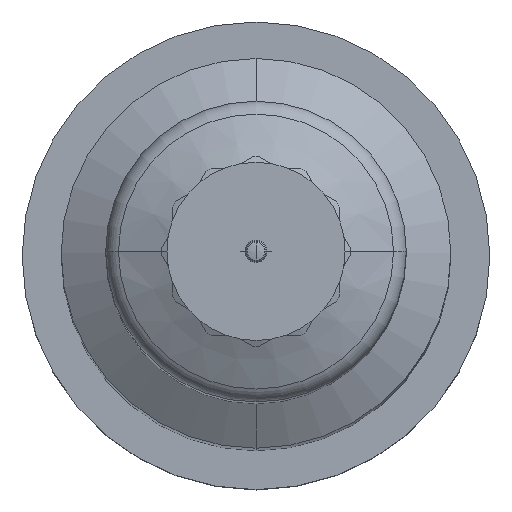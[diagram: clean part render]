
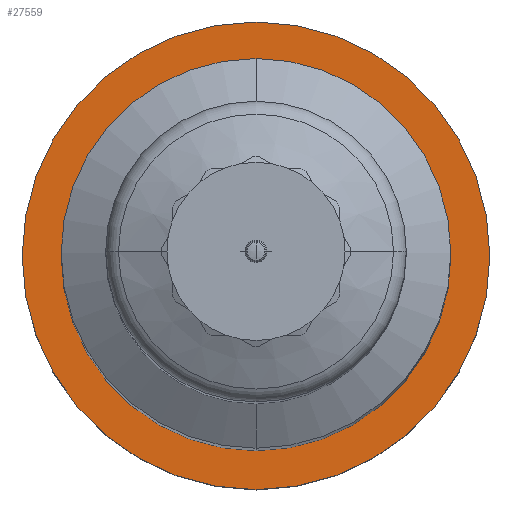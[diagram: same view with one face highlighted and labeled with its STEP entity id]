
A CAD part, top view. The second image highlights one B-rep face of the part: STEP entity #27559.
In plain terms, the highlighted planar face has unit normal (0, 0, 1).
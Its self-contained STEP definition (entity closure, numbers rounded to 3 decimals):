
#434 = AXIS2_PLACEMENT_3D ( 'NONE', #24925, #3801, #5875 ) ;
#1273 = CARTESIAN_POINT ( 'NONE',  ( 0., 0., 15. ) ) ;
#1391 = CARTESIAN_POINT ( 'NONE',  ( 21., 0., 15. ) ) ;
#1515 = EDGE_LOOP ( 'NONE', ( #1648, #10318 ) ) ;
#1648 = ORIENTED_EDGE ( 'NONE', *, *, #18049, .F. ) ;
#2556 = CIRCLE ( 'NONE', #9492, 17.5 ) ;
#2824 = CIRCLE ( 'NONE', #434, 21. ) ;
#3801 = DIRECTION ( 'NONE',  ( 0., 0., -1. ) ) ;
#3945 = CARTESIAN_POINT ( 'NONE',  ( 0., 0., 15. ) ) ;
#5067 = FACE_BOUND ( 'NONE', #1515, .T. ) ;
#5084 = CARTESIAN_POINT ( 'NONE',  ( 0., 17.5, 15. ) ) ;
#5875 = DIRECTION ( 'NONE',  ( 1., 0., 0. ) ) ;
#6176 = DIRECTION ( 'NONE',  ( 0., 0., 1. ) ) ;
#6430 = CARTESIAN_POINT ( 'NONE',  ( 0., -17.5, 15. ) ) ;
#7201 = VERTEX_POINT ( 'NONE', #6430 ) ;
#8062 = CARTESIAN_POINT ( 'NONE',  ( 13.5, 0., 15. ) ) ;
#8088 = FACE_OUTER_BOUND ( 'NONE', #18948, .T. ) ;
#8149 = DIRECTION ( 'NONE',  ( -1., 0., 0. ) ) ;
#9492 = AXIS2_PLACEMENT_3D ( 'NONE', #3945, #27898, #17063 ) ;
#10290 = AXIS2_PLACEMENT_3D ( 'NONE', #18026, #24248, #13398 ) ;
#10318 = ORIENTED_EDGE ( 'NONE', *, *, #13193, .F. ) ;
#11638 = CIRCLE ( 'NONE', #10290, 21. ) ;
#11728 = AXIS2_PLACEMENT_3D ( 'NONE', #1273, #20899, #16386 ) ;
#12254 = EDGE_CURVE ( 'NONE', #13467, #25168, #11638, .T. ) ;
#13193 = EDGE_CURVE ( 'NONE', #7201, #20621, #27407, .T. ) ;
#13398 = DIRECTION ( 'NONE',  ( 1., 0., 0. ) ) ;
#13467 = VERTEX_POINT ( 'NONE', #16849 ) ;
#16386 = DIRECTION ( 'NONE',  ( -1., 0., 0. ) ) ;
#16666 = PLANE ( 'NONE',  #19841 ) ;
#16849 = CARTESIAN_POINT ( 'NONE',  ( -21., 0., 15. ) ) ;
#17063 = DIRECTION ( 'NONE',  ( -1., 0., 0. ) ) ;
#18026 = CARTESIAN_POINT ( 'NONE',  ( 0., 0., 15. ) ) ;
#18049 = EDGE_CURVE ( 'NONE', #20621, #7201, #2556, .T. ) ;
#18883 = EDGE_CURVE ( 'NONE', #25168, #13467, #2824, .T. ) ;
#18948 = EDGE_LOOP ( 'NONE', ( #27083, #23897 ) ) ;
#19841 = AXIS2_PLACEMENT_3D ( 'NONE', #8062, #6176, #8149 ) ;
#20621 = VERTEX_POINT ( 'NONE', #5084 ) ;
#20899 = DIRECTION ( 'NONE',  ( 0., 0., 1. ) ) ;
#23897 = ORIENTED_EDGE ( 'NONE', *, *, #12254, .F. ) ;
#24248 = DIRECTION ( 'NONE',  ( 0., 0., -1. ) ) ;
#24925 = CARTESIAN_POINT ( 'NONE',  ( 0., 0., 15. ) ) ;
#25168 = VERTEX_POINT ( 'NONE', #1391 ) ;
#27083 = ORIENTED_EDGE ( 'NONE', *, *, #18883, .F. ) ;
#27407 = CIRCLE ( 'NONE', #11728, 17.5 ) ;
#27559 = ADVANCED_FACE ( 'NONE', ( #5067, #8088 ), #16666, .T. ) ;
#27898 = DIRECTION ( 'NONE',  ( 0., 0., 1. ) ) ;
